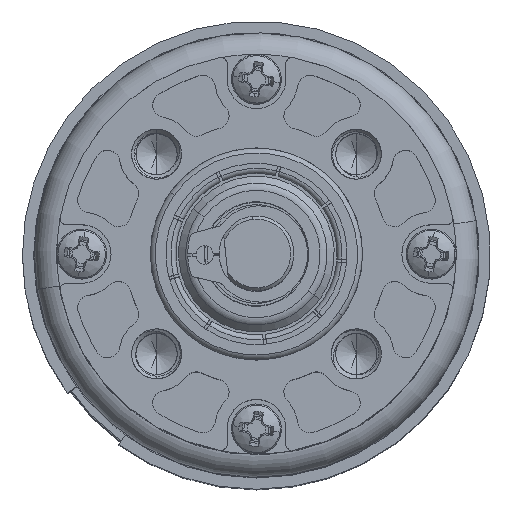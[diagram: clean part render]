
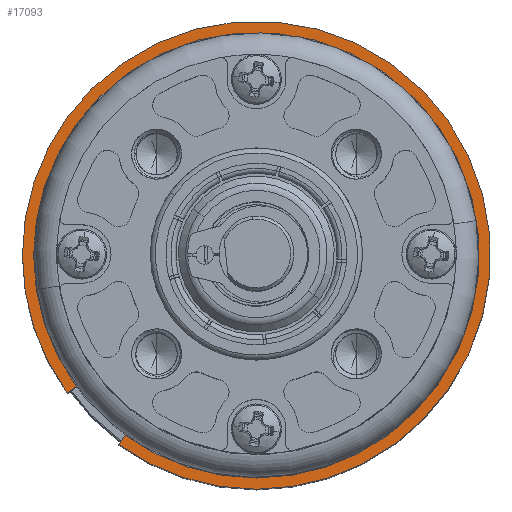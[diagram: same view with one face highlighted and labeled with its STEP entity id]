
A CAD part, top view. The second image highlights one B-rep face of the part: STEP entity #17093.
In plain terms, the highlighted planar face has unit normal (0, 0, 1).
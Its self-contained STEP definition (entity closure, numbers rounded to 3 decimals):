
#109 = CARTESIAN_POINT ( 'NONE',  ( 12.622, -12.622, -54.25 ) ) ;
#986 = DIRECTION ( 'NONE',  ( 0.707, -0.707, 0. ) ) ;
#1793 = ORIENTED_EDGE ( 'NONE', *, *, #60731, .T. ) ;
#3728 = VERTEX_POINT ( 'NONE', #109 ) ;
#4181 = CARTESIAN_POINT ( 'NONE',  ( -14.425, -10.514, -54.25 ) ) ;
#4982 = CARTESIAN_POINT ( 'NONE',  ( 0., 0., -54.25 ) ) ;
#5525 = DIRECTION ( 'NONE',  ( 0.707, -0.707, 0. ) ) ;
#6135 = EDGE_CURVE ( 'NONE', #3728, #13812, #28351, .T. ) ;
#7301 = CARTESIAN_POINT ( 'NONE',  ( -11.044, -15.152, -54.25 ) ) ;
#7733 = EDGE_CURVE ( 'NONE', #13812, #37949, #53004, .T. ) ;
#7822 = CIRCLE ( 'NONE', #16277, 18.75 ) ;
#7849 = CARTESIAN_POINT ( 'NONE',  ( -15.152, -11.044, -54.25 ) ) ;
#8147 = ORIENTED_EDGE ( 'NONE', *, *, #57980, .F. ) ;
#11495 = AXIS2_PLACEMENT_3D ( 'NONE', #37112, #48919, #48454 ) ;
#13764 = LINE ( 'NONE', #44500, #67150 ) ;
#13812 = VERTEX_POINT ( 'NONE', #48328 ) ;
#16155 = ORIENTED_EDGE ( 'NONE', *, *, #67026, .F. ) ;
#16277 = AXIS2_PLACEMENT_3D ( 'NONE', #50333, #65829, #986 ) ;
#17093 = ADVANCED_FACE ( 'NONE', ( #36206 ), #46924, .F. ) ;
#17209 = VERTEX_POINT ( 'NONE', #4181 ) ;
#18021 = CARTESIAN_POINT ( 'NONE',  ( 0., 0., -54.25 ) ) ;
#21160 = DIRECTION ( 'NONE',  ( -0.589, -0.808, 0. ) ) ;
#22411 = CIRCLE ( 'NONE', #11495, 18.75 ) ;
#23141 = CIRCLE ( 'NONE', #67483, 17.85 ) ;
#23445 = DIRECTION ( 'NONE',  ( 0.707, -0.707, 0. ) ) ;
#23670 = DIRECTION ( 'NONE',  ( 0., 0., -1. ) ) ;
#24602 = AXIS2_PLACEMENT_3D ( 'NONE', #27388, #65342, #43952 ) ;
#27388 = CARTESIAN_POINT ( 'NONE',  ( 0., 0., -54.25 ) ) ;
#28351 = CIRCLE ( 'NONE', #24602, 17.85 ) ;
#28847 = EDGE_CURVE ( 'NONE', #36403, #47910, #22411, .T. ) ;
#28953 = EDGE_CURVE ( 'NONE', #58929, #36403, #51178, .T. ) ;
#34515 = CIRCLE ( 'NONE', #42010, 17.85 ) ;
#35447 = DIRECTION ( 'NONE',  ( 0., 0., -1. ) ) ;
#36186 = ORIENTED_EDGE ( 'NONE', *, *, #28847, .F. ) ;
#36206 = FACE_OUTER_BOUND ( 'NONE', #53287, .T. ) ;
#36403 = VERTEX_POINT ( 'NONE', #66830 ) ;
#37112 = CARTESIAN_POINT ( 'NONE',  ( 0., 0., -54.25 ) ) ;
#37229 = EDGE_CURVE ( 'NONE', #63222, #3728, #23141, .T. ) ;
#37645 = ORIENTED_EDGE ( 'NONE', *, *, #7733, .T. ) ;
#37949 = VERTEX_POINT ( 'NONE', #7301 ) ;
#38077 = DIRECTION ( 'NONE',  ( 0., 0., -1. ) ) ;
#38599 = VECTOR ( 'NONE', #21160, 1000. ) ;
#40551 = AXIS2_PLACEMENT_3D ( 'NONE', #18021, #23670, #23445 ) ;
#41937 = DIRECTION ( 'NONE',  ( 0.707, -0.707, 0. ) ) ;
#42010 = AXIS2_PLACEMENT_3D ( 'NONE', #51542, #35447, #45625 ) ;
#42434 = ORIENTED_EDGE ( 'NONE', *, *, #37229, .T. ) ;
#43020 = CARTESIAN_POINT ( 'NONE',  ( -12.622, 12.622, -54.25 ) ) ;
#43952 = DIRECTION ( 'NONE',  ( 0.707, -0.707, 0. ) ) ;
#44500 = CARTESIAN_POINT ( 'NONE',  ( 0., 0., -54.25 ) ) ;
#45625 = DIRECTION ( 'NONE',  ( 0.707, -0.707, 0. ) ) ;
#46924 = PLANE ( 'NONE',  #63420 ) ;
#47518 = ORIENTED_EDGE ( 'NONE', *, *, #6135, .T. ) ;
#47910 = VERTEX_POINT ( 'NONE', #66817 ) ;
#48328 = CARTESIAN_POINT ( 'NONE',  ( -10.514, -14.425, -54.25 ) ) ;
#48454 = DIRECTION ( 'NONE',  ( 0.707, -0.707, 0. ) ) ;
#48919 = DIRECTION ( 'NONE',  ( 0., 0., -1. ) ) ;
#50333 = CARTESIAN_POINT ( 'NONE',  ( 0., 0., -54.25 ) ) ;
#50428 = ORIENTED_EDGE ( 'NONE', *, *, #28953, .F. ) ;
#51178 = CIRCLE ( 'NONE', #40551, 18.75 ) ;
#51542 = CARTESIAN_POINT ( 'NONE',  ( 0., 0., -54.25 ) ) ;
#53004 = LINE ( 'NONE', #4982, #38599 ) ;
#53287 = EDGE_LOOP ( 'NONE', ( #8147, #1793, #42434, #47518, #37645, #16155, #36186, #50428 ) ) ;
#54214 = DIRECTION ( 'NONE',  ( -0.808, -0.589, 0. ) ) ;
#57980 = EDGE_CURVE ( 'NONE', #17209, #58929, #13764, .T. ) ;
#58929 = VERTEX_POINT ( 'NONE', #7849 ) ;
#59654 = CARTESIAN_POINT ( 'NONE',  ( 0., 0., -54.25 ) ) ;
#60731 = EDGE_CURVE ( 'NONE', #17209, #63222, #34515, .T. ) ;
#63222 = VERTEX_POINT ( 'NONE', #43020 ) ;
#63420 = AXIS2_PLACEMENT_3D ( 'NONE', #63804, #63590, #41937 ) ;
#63590 = DIRECTION ( 'NONE',  ( 0., 0., -1. ) ) ;
#63804 = CARTESIAN_POINT ( 'NONE',  ( 0., 0., -54.25 ) ) ;
#65342 = DIRECTION ( 'NONE',  ( 0., 0., -1. ) ) ;
#65829 = DIRECTION ( 'NONE',  ( 0., 0., -1. ) ) ;
#66817 = CARTESIAN_POINT ( 'NONE',  ( 13.258, -13.258, -54.25 ) ) ;
#66830 = CARTESIAN_POINT ( 'NONE',  ( -13.258, 13.258, -54.25 ) ) ;
#67026 = EDGE_CURVE ( 'NONE', #47910, #37949, #7822, .T. ) ;
#67150 = VECTOR ( 'NONE', #54214, 1000. ) ;
#67483 = AXIS2_PLACEMENT_3D ( 'NONE', #59654, #38077, #5525 ) ;
